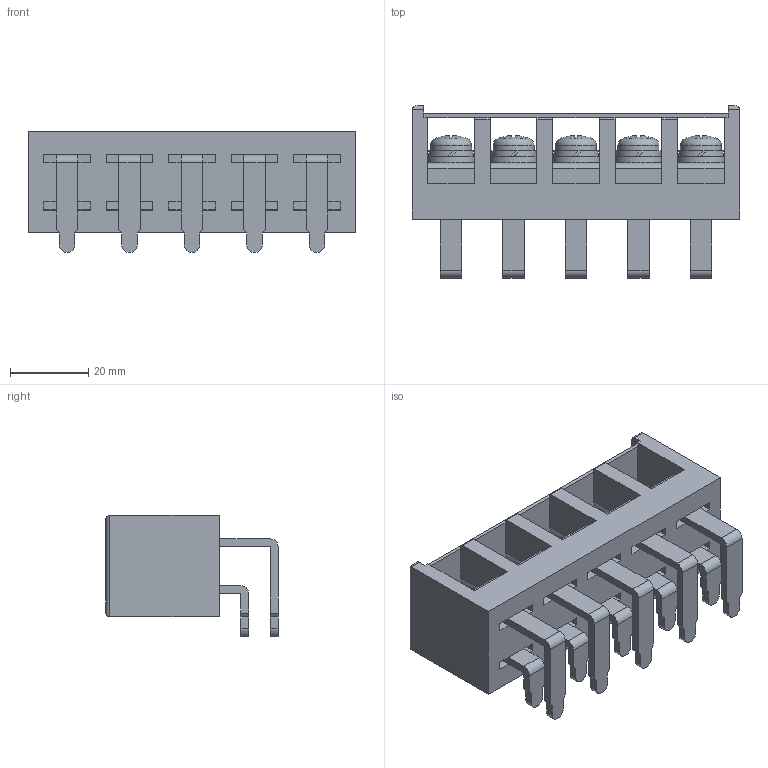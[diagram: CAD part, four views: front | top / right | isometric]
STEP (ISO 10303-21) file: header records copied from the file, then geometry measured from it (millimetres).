
FILE_DESCRIPTION(/* description */ ('Alibre Inc.'),/* implementation_level */ '2;1');
FILE_NAME(/* name */ 'export-0BC126B0-97F4-4F28-AA8B-8050F6FE6655',/* time_stamp */ '2025-01-30T14:15:53+09:00',/* author */ (''),/* organization */ (''),/* preprocessor_version */ 'ST-DEVELOPER v17',/* originating_system */ 'Alibre',/* authorisation */ '');
FILE_SCHEMA (('CONFIG_CONTROL_DESIGN'));
Length unit declared in the file: millimetre
Bounding box: 84 x 44.1 x 31 mm (x, y, z)
Volume: 41981.6 mm3; surface area: 25288.3 mm2
Topology: 1 solids, 2 shells, 815 faces, 2286 edges, 1496 vertices
Faces by surface type: plane 550, bspline 150, cylinder 84, cone 21, torus 5, sphere 5
Full cylindrical faces by diameter (mm): 6 x1, 10.5 x5, 12.5 x4
Entity records: 24652 total; most frequent: CARTESIAN_POINT 5825, ORIENTED_EDGE 4522, DIRECTION 2737, EDGE_CURVE 2261, VERTEX_POINT 1487, VECTOR 1481, LINE 1481, EDGE_LOOP 882
